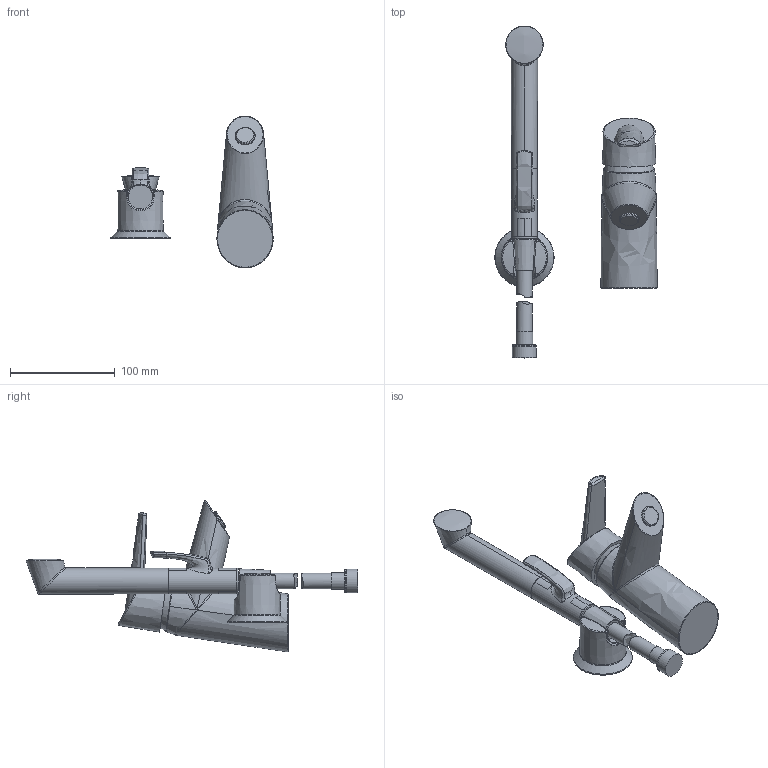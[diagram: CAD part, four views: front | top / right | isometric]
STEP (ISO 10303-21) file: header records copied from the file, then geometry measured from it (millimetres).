
FILE_DESCRIPTION (( 'STEP AP203' ), '1' );
FILE_NAME ('2702F+2712F+2703F+2713F+2703FT.STEP', '2017-03-09T05:47:38', ( '' ), ( '' ), 'SwSTEP 2.0', 'SolidWorks 2016', '' );
FILE_SCHEMA (( 'CONFIG_CONTROL_DESIGN' ));
Products named in the file (1): 2702F+2712F+2703F+2713F+2703FT
Bounding box: 155.25 x 317.35 x 145.12 mm (x, y, z)
Volume: 611281 mm3; surface area: 77087.4 mm2
Topology: 3 solids, 3 shells, 146 faces, 382 edges, 253 vertices
Faces by surface type: bspline 89, plane 21, torus 12, cylinder 11, cone 8, sphere 5
Full cylindrical faces by diameter (mm): 15 x2, 16.1 x1, 18.631 x1, 19 x1, 22.6 x1, 22.95 x1, 24.4 x1, 24.8 x1
Entity records: 30203 total; most frequent: CARTESIAN_POINT 27446, ORIENTED_EDGE 688, EDGE_CURVE 344, DIRECTION 309, VERTEX_POINT 240, B_SPLINE_CURVE_WITH_KNOTS 232, EDGE_LOOP 180, FACE_OUTER_BOUND 163
